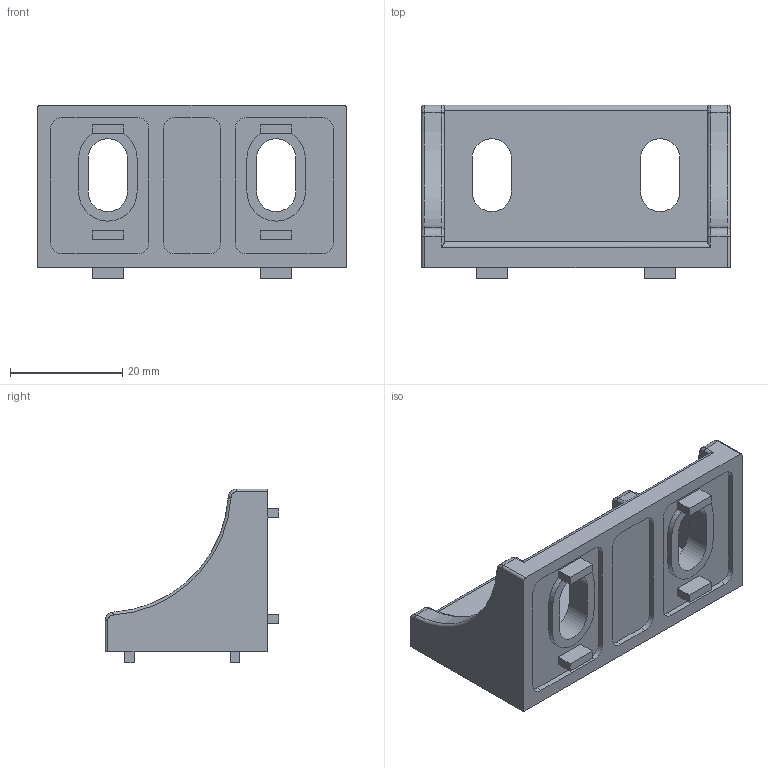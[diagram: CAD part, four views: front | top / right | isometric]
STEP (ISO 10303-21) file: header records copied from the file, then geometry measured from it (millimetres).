
FILE_DESCRIPTION (( 'STEP AP203' ), '1' );
FILE_NAME ('DCB3055-6.STEP', '2018-09-12T07:18:17', ( '' ), ( '' ), 'SwSTEP 2.0', 'SolidWorks 2012', '' );
FILE_SCHEMA (( 'CONFIG_CONTROL_DESIGN' ));
Length unit declared in the file: millimetre
Products named in the file (1): DCB3055-6
Bounding box: 55 x 31 x 31 mm (x, y, z)
Volume: 12323 mm3; surface area: 8482.4 mm2
Topology: 1 solids, 1 shells, 176 faces, 464 edges, 304 vertices
Faces by surface type: plane 100, cylinder 64, torus 12
Entity records: 5561 total; most frequent: CARTESIAN_POINT 977, DIRECTION 958, ORIENTED_EDGE 928, EDGE_CURVE 464, AXIS2_PLACEMENT_3D 321, LINE 316, VECTOR 316, VERTEX_POINT 304
